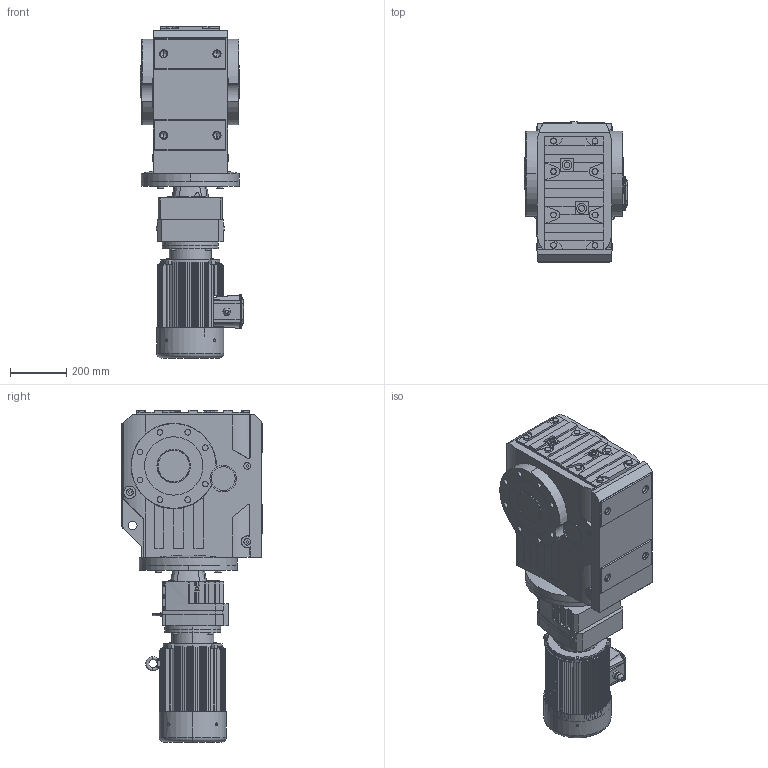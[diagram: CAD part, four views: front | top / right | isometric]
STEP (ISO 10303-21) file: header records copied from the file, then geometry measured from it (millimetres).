
FILE_DESCRIPTION (( 'STEP AP203' ), '1' );
FILE_NAME ('KA107R77-Y4-4P-351-M1-0¡ã-A.step', '2018-08-10T01:37:40', ( 'IT Division' ), ( 'IT' ), 'SwSTEP 2.0', 'SolidWorks 2016', '' );
FILE_SCHEMA (( 'CONFIG_CONTROL_DESIGN' ));
Length unit declared in the file: millimetre
Products named in the file (4): KA107R77-Y4-4P-351-M1-0°-A_KA107_KA107R77; KA107R77-Y4-4P-351-M1-0°-A_RF77_RF77; KA107R77-Y4-4P-351-M1-0°-A; KA107R77-Y4-4P-351-M1-0°-A_电机_Y112M
Assembly tree (3 placements, depth 2):
  KA107R77-Y4-4P-351-M1-0°-A
    KA107R77-Y4-4P-351-M1-0°-A_KA107_KA107R77
    KA107R77-Y4-4P-351-M1-0°-A_电机_Y112M
    KA107R77-Y4-4P-351-M1-0°-A_RF77_RF77
Bounding box: 368 x 500 x 1183.4 mm (x, y, z)
Volume: 96211471.3 mm3; surface area: 3081648.6 mm2
Topology: 5 solids, 6 shells, 2062 faces, 5235 edges, 3312 vertices
Faces by surface type: plane 1047, cylinder 486, cone 371, torus 136, bspline 12, sphere 10
Entity records: 68070 total; most frequent: CARTESIAN_POINT 18640, ORIENTED_EDGE 10438, DIRECTION 10000, EDGE_CURVE 5219, AXIS2_PLACEMENT_3D 3702, VERTEX_POINT 3312, VECTOR 2596, LINE 2596
